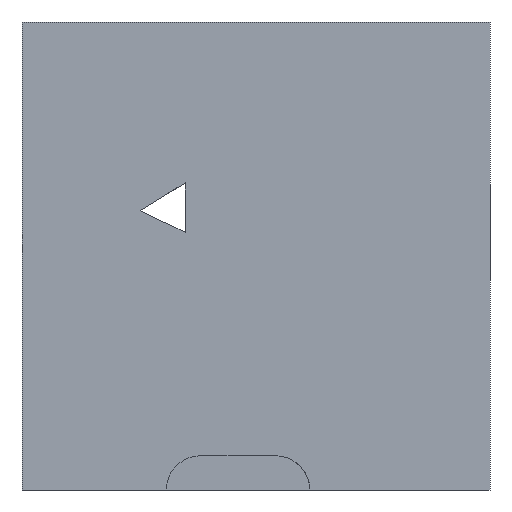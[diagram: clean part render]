
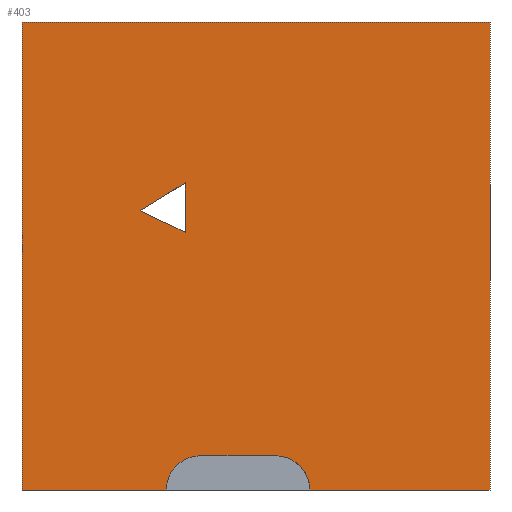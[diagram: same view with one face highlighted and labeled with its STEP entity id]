
A CAD part, left-side view. The second image highlights one B-rep face of the part: STEP entity #403.
In plain terms, the highlighted planar face has unit normal (-1, 0, 0).
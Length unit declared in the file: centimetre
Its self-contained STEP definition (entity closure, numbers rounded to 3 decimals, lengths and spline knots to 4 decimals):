
#2 = DIRECTION ( 'NONE',  ( 0., 0., -1. ) ) ;
#17 = DIRECTION ( 'NONE',  ( -1., 0., 0. ) ) ;
#19 = VECTOR ( 'NONE', #1081, 100. ) ;
#41 = CIRCLE ( 'NONE', #976, 73.1717 ) ;
#61 = ORIENTED_EDGE ( 'NONE', *, *, #784, .T. ) ;
#71 = CARTESIAN_POINT ( 'NONE',  ( 0., 1000., 1000. ) ) ;
#91 = DIRECTION ( 'NONE',  ( 0., -1., 0. ) ) ;
#96 = LINE ( 'NONE', #1131, #1123 ) ;
#149 = VECTOR ( 'NONE', #91, 100. ) ;
#164 = CARTESIAN_POINT ( 'NONE',  ( 0., 651.5456, 656.1272 ) ) ;
#175 = LINE ( 'NONE', #1220, #1319 ) ;
#179 = CARTESIAN_POINT ( 'NONE',  ( 0., 0., 0. ) ) ;
#192 = CARTESIAN_POINT ( 'NONE',  ( 0., 1000., 1000. ) ) ;
#200 = EDGE_CURVE ( 'NONE', #1139, #1225, #555, .T. ) ;
#221 = VECTOR ( 'NONE', #920, 100. ) ;
#225 = CARTESIAN_POINT ( 'NONE',  ( 0., 691.4438, 0. ) ) ;
#231 = EDGE_CURVE ( 'NONE', #810, #1119, #1275, .T. ) ;
#264 = DIRECTION ( 'NONE',  ( 0., 0., -1. ) ) ;
#267 = ORIENTED_EDGE ( 'NONE', *, *, #673, .T. ) ;
#283 = DIRECTION ( 'NONE',  ( 0., -1., 0. ) ) ;
#299 = EDGE_CURVE ( 'NONE', #1225, #1026, #175, .T. ) ;
#343 = CARTESIAN_POINT ( 'NONE',  ( 0., 618.2721, 73.1717 ) ) ;
#359 = EDGE_CURVE ( 'NONE', #534, #587, #486, .T. ) ;
#360 = EDGE_CURVE ( 'NONE', #534, #1312, #898, .T. ) ;
#366 = ORIENTED_EDGE ( 'NONE', *, *, #200, .F. ) ;
#389 = FACE_OUTER_BOUND ( 'NONE', #1332, .T. ) ;
#392 = VECTOR ( 'NONE', #719, 100. ) ;
#393 = EDGE_CURVE ( 'NONE', #1119, #567, #1322, .T. ) ;
#396 = CARTESIAN_POINT ( 'NONE',  ( 0., 1000., 0. ) ) ;
#403 = ADVANCED_FACE ( 'NONE', ( #407, #389 ), #802, .F. ) ;
#405 = EDGE_CURVE ( 'NONE', #587, #1294, #96, .T. ) ;
#407 = FACE_BOUND ( 'NONE', #508, .T. ) ;
#418 = VECTOR ( 'NONE', #283, 100. ) ;
#441 = DIRECTION ( 'NONE',  ( 0., 0., -1. ) ) ;
#476 = ORIENTED_EDGE ( 'NONE', *, *, #405, .F. ) ;
#486 = LINE ( 'NONE', #511, #149 ) ;
#494 = CARTESIAN_POINT ( 'NONE',  ( 0., 746.714, 597.0692 ) ) ;
#508 = EDGE_LOOP ( 'NONE', ( #61, #1143, #804 ) ) ;
#511 = CARTESIAN_POINT ( 'NONE',  ( 0., 1000., 1000. ) ) ;
#534 = VERTEX_POINT ( 'NONE', #192 ) ;
#555 = CIRCLE ( 'NONE', #1302, 73.1717 ) ;
#567 = VERTEX_POINT ( 'NONE', #923 ) ;
#573 = CARTESIAN_POINT ( 'NONE',  ( 0., 384.9061, 0. ) ) ;
#587 = VERTEX_POINT ( 'NONE', #1326 ) ;
#595 = ORIENTED_EDGE ( 'NONE', *, *, #634, .F. ) ;
#600 = ORIENTED_EDGE ( 'NONE', *, *, #299, .F. ) ;
#610 = DIRECTION ( 'NONE',  ( 0., 1., 0. ) ) ;
#621 = VERTEX_POINT ( 'NONE', #225 ) ;
#634 = EDGE_CURVE ( 'NONE', #1026, #621, #41, .T. ) ;
#648 = LINE ( 'NONE', #1257, #418 ) ;
#672 = AXIS2_PLACEMENT_3D ( 'NONE', #932, #1032, #2 ) ;
#673 = EDGE_CURVE ( 'NONE', #1312, #621, #794, .T. ) ;
#700 = ORIENTED_EDGE ( 'NONE', *, *, #360, .T. ) ;
#706 = DIRECTION ( 'NONE',  ( 0., 0., -1. ) ) ;
#719 = DIRECTION ( 'NONE',  ( 0., -0.85, 0.527 ) ) ;
#763 = VECTOR ( 'NONE', #706, 100. ) ;
#769 = CARTESIAN_POINT ( 'NONE',  ( 0., 651.5456, 656.1272 ) ) ;
#773 = CARTESIAN_POINT ( 'NONE',  ( 0., 458.0777, 0. ) ) ;
#784 = EDGE_CURVE ( 'NONE', #567, #810, #1005, .T. ) ;
#794 = LINE ( 'NONE', #798, #1208 ) ;
#798 = CARTESIAN_POINT ( 'NONE',  ( 0., 1000., 0. ) ) ;
#802 = PLANE ( 'NONE',  #672 ) ;
#804 = ORIENTED_EDGE ( 'NONE', *, *, #393, .T. ) ;
#810 = VERTEX_POINT ( 'NONE', #984 ) ;
#842 = EDGE_CURVE ( 'NONE', #1139, #1294, #648, .T. ) ;
#898 = LINE ( 'NONE', #71, #763 ) ;
#913 = ORIENTED_EDGE ( 'NONE', *, *, #359, .F. ) ;
#920 = DIRECTION ( 'NONE',  ( 0., 0., -1. ) ) ;
#923 = CARTESIAN_POINT ( 'NONE',  ( 0., 651.5456, 550.3488 ) ) ;
#932 = CARTESIAN_POINT ( 'NONE',  ( 0., 1000., 1000. ) ) ;
#976 = AXIS2_PLACEMENT_3D ( 'NONE', #1224, #17, #441 ) ;
#984 = CARTESIAN_POINT ( 'NONE',  ( 0., 746.714, 597.0692 ) ) ;
#999 = DIRECTION ( 'NONE',  ( 0., -1., 0. ) ) ;
#1005 = LINE ( 'NONE', #494, #19 ) ;
#1013 = ORIENTED_EDGE ( 'NONE', *, *, #842, .T. ) ;
#1026 = VERTEX_POINT ( 'NONE', #343 ) ;
#1027 = CARTESIAN_POINT ( 'NONE',  ( 0., 651.5456, 550.3488 ) ) ;
#1032 = DIRECTION ( 'NONE',  ( 1., 0., 0. ) ) ;
#1081 = DIRECTION ( 'NONE',  ( 0., 0.898, 0.441 ) ) ;
#1087 = CARTESIAN_POINT ( 'NONE',  ( 0., 458.0777, 73.1717 ) ) ;
#1119 = VERTEX_POINT ( 'NONE', #164 ) ;
#1123 = VECTOR ( 'NONE', #1340, 100. ) ;
#1131 = CARTESIAN_POINT ( 'NONE',  ( 0., 0., 1000. ) ) ;
#1139 = VERTEX_POINT ( 'NONE', #573 ) ;
#1143 = ORIENTED_EDGE ( 'NONE', *, *, #231, .T. ) ;
#1178 = DIRECTION ( 'NONE',  ( -1., 0., 0. ) ) ;
#1208 = VECTOR ( 'NONE', #999, 100. ) ;
#1220 = CARTESIAN_POINT ( 'NONE',  ( 0., 618.2721, 73.1717 ) ) ;
#1224 = CARTESIAN_POINT ( 'NONE',  ( 0., 618.2721, 0. ) ) ;
#1225 = VERTEX_POINT ( 'NONE', #1087 ) ;
#1257 = CARTESIAN_POINT ( 'NONE',  ( 0., 1000., 0. ) ) ;
#1275 = LINE ( 'NONE', #769, #392 ) ;
#1294 = VERTEX_POINT ( 'NONE', #179 ) ;
#1302 = AXIS2_PLACEMENT_3D ( 'NONE', #773, #1178, #264 ) ;
#1312 = VERTEX_POINT ( 'NONE', #396 ) ;
#1319 = VECTOR ( 'NONE', #610, 100. ) ;
#1322 = LINE ( 'NONE', #1027, #221 ) ;
#1326 = CARTESIAN_POINT ( 'NONE',  ( 0., 0., 1000. ) ) ;
#1332 = EDGE_LOOP ( 'NONE', ( #600, #366, #1013, #476, #913, #700, #267, #595 ) ) ;
#1340 = DIRECTION ( 'NONE',  ( 0., 0., -1. ) ) ;
